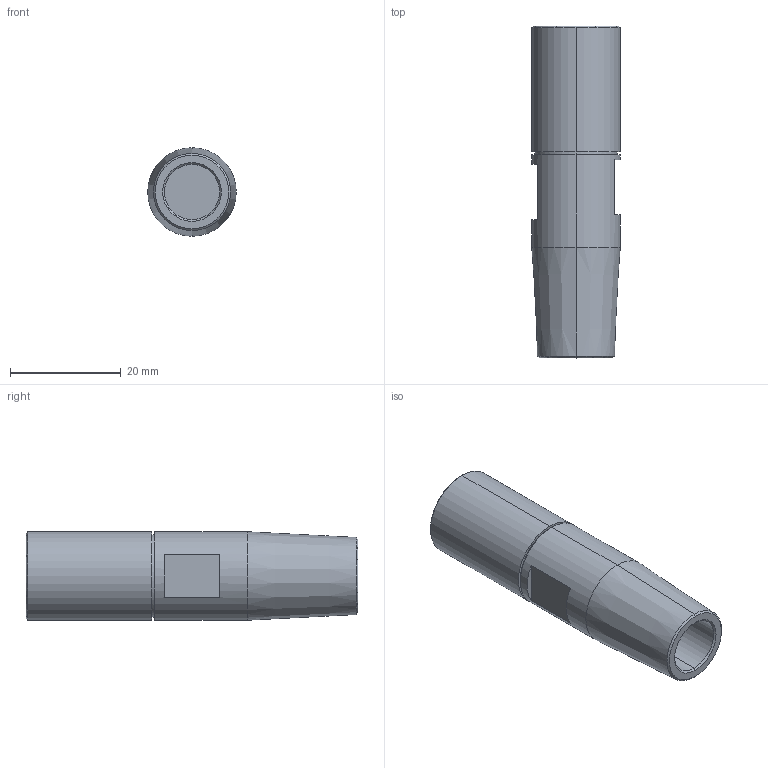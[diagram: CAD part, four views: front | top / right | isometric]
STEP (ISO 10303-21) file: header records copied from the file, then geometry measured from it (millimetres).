
FILE_DESCRIPTION (( 'STEP AP203' ), '1' );
FILE_NAME ('SW-PB-D456-1.STEP', '2022-06-14T02:57:17', ( '' ), ( '' ), 'SwSTEP 2.0', 'SolidWorks 2015', '' );
FILE_SCHEMA (( 'CONFIG_CONTROL_DESIGN' ));
Length unit declared in the file: millimetre
Products named in the file (2): SW-PB-D456-1
Bounding box: 16 x 60 x 16 mm (x, y, z)
Volume: 8531.4 mm3; surface area: 4506.2 mm2
Topology: 1 solids, 1 shells, 27 faces, 52 edges, 32 vertices
Faces by surface type: plane 11, cone 8, cylinder 8
Entity records: 933 total; most frequent: CARTESIAN_POINT 213, DIRECTION 130, ORIENTED_EDGE 104, AXIS2_PLACEMENT_3D 53, EDGE_CURVE 52, EDGE_LOOP 32, VERTEX_POINT 32, ADVANCED_FACE 27
